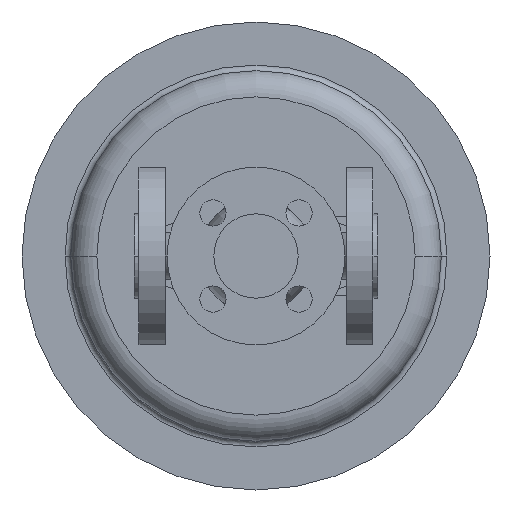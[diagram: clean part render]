
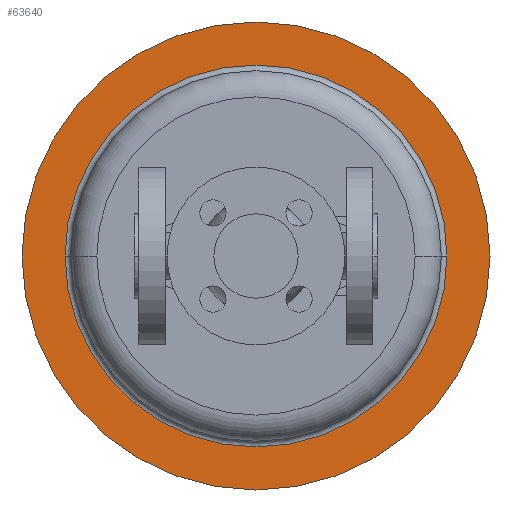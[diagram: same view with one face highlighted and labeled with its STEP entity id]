
A CAD part, front view. The second image highlights one B-rep face of the part: STEP entity #63640.
In plain terms, the highlighted planar face has unit normal (0, -1, 0).
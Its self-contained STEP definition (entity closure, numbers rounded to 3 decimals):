
#49090=CARTESIAN_POINT('',(190.,568.,0.));
#49100=VERTEX_POINT('',#49090);
#49260=CARTESIAN_POINT('',(-60.,568.,0.));
#49270=VERTEX_POINT('',#49260);
#49300=CARTESIAN_POINT('',(65.,568.,0.));
#49310=DIRECTION('',(0.,1.,0.));
#49320=DIRECTION('',(1.,0.,0.));
#49330=AXIS2_PLACEMENT_3D('',#49300,#49310,#49320);
#49340=CIRCLE('',#49330,125.);
#49350=EDGE_CURVE('',#49100,#49270,#49340,.T.);
#49520=CARTESIAN_POINT('',(167.,568.,0.));
#49530=VERTEX_POINT('',#49520);
#49560=CARTESIAN_POINT('',(65.,568.,0.));
#49570=DIRECTION('',(0.,1.,0.));
#49580=DIRECTION('',(1.,0.,0.));
#49590=AXIS2_PLACEMENT_3D('',#49560,#49570,#49580);
#49600=CIRCLE('',#49590,102.);
#49610=CARTESIAN_POINT('',(-37.,568.,0.));
#49620=VERTEX_POINT('',#49610);
#49630=EDGE_CURVE('',#49530,#49620,#49600,.T.);
#63490=CARTESIAN_POINT('',(178.5,568.,0.));
#63500=DIRECTION('',(0.,-1.,0.));
#63510=DIRECTION('',(-1.,0.,0.));
#63520=AXIS2_PLACEMENT_3D('',#63490,#63500,#63510);
#63530=PLANE('',#63520);
#63540=EDGE_CURVE('',#49270,#49100,#49340,.T.);
#63550=ORIENTED_EDGE('',*,*,#63540,.F.);
#63560=ORIENTED_EDGE('',*,*,#49350,.F.);
#63570=EDGE_LOOP('',(#63560,#63550));
#63580=FACE_OUTER_BOUND('',#63570,.T.);
#63590=ORIENTED_EDGE('',*,*,#49630,.T.);
#63600=EDGE_CURVE('',#49620,#49530,#49600,.T.);
#63610=ORIENTED_EDGE('',*,*,#63600,.T.);
#63620=EDGE_LOOP('',(#63610,#63590));
#63630=FACE_BOUND('',#63620,.T.);
#63640=ADVANCED_FACE('',(#63580,#63630),#63530,.T.);
